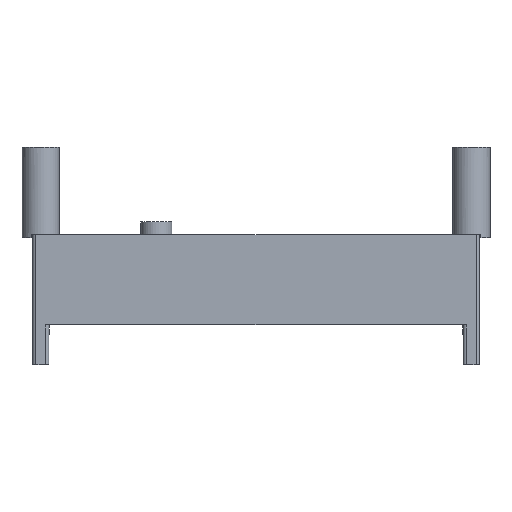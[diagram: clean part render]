
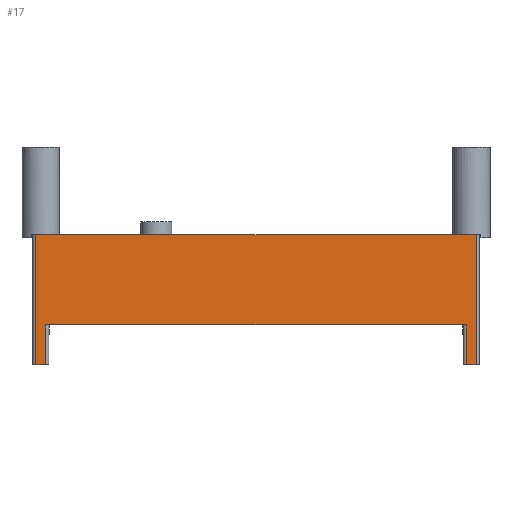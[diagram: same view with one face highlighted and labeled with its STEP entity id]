
A CAD part, left-side view. The second image highlights one B-rep face of the part: STEP entity #17.
In plain terms, the highlighted planar face has unit normal (-1, 0, 0).
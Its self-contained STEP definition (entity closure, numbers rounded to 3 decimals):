
#17 = ADVANCED_FACE('',(#18),#32,.F.);
#18 = FACE_BOUND('',#19,.F.);
#19 = EDGE_LOOP('',(#20,#55,#83,#111,#139,#167,#190,#213,#241,#269));
#20 = ORIENTED_EDGE('',*,*,#21,.F.);
#21 = EDGE_CURVE('',#22,#24,#26,.T.);
#22 = VERTEX_POINT('',#23);
#23 = CARTESIAN_POINT('',(-69.45,-35.3,25.45));
#24 = VERTEX_POINT('',#25);
#25 = CARTESIAN_POINT('',(-69.45,35.3,25.45));
#26 = SURFACE_CURVE('',#27,(#31,#43),.PCURVE_S1.);
#27 = LINE('',#28,#29);
#28 = CARTESIAN_POINT('',(-69.45,-35.8,25.45));
#29 = VECTOR('',#30,1.);
#30 = DIRECTION('',(0.,1.,0.));
#31 = PCURVE('',#32,#37);
#32 = PLANE('',#33);
#33 = AXIS2_PLACEMENT_3D('',#34,#35,#36);
#34 = CARTESIAN_POINT('',(-69.45,-35.8,4.6));
#35 = DIRECTION('',(1.,0.,-0.));
#36 = DIRECTION('',(0.,0.,1.));
#37 = DEFINITIONAL_REPRESENTATION('',(#38),#42);
#38 = LINE('',#39,#40);
#39 = CARTESIAN_POINT('',(20.85,0.));
#40 = VECTOR('',#41,1.);
#41 = DIRECTION('',(0.,-1.));
#42 = ( GEOMETRIC_REPRESENTATION_CONTEXT(2) 
PARAMETRIC_REPRESENTATION_CONTEXT() REPRESENTATION_CONTEXT('2D SPACE',''
  ) );
#43 = PCURVE('',#44,#49);
#44 = PLANE('',#45);
#45 = AXIS2_PLACEMENT_3D('',#46,#47,#48);
#46 = CARTESIAN_POINT('',(-69.45,-35.8,25.45));
#47 = DIRECTION('',(0.,0.,1.));
#48 = DIRECTION('',(1.,0.,-0.));
#49 = DEFINITIONAL_REPRESENTATION('',(#50),#54);
#50 = LINE('',#51,#52);
#51 = CARTESIAN_POINT('',(0.,0.));
#52 = VECTOR('',#53,1.);
#53 = DIRECTION('',(0.,1.));
#54 = ( GEOMETRIC_REPRESENTATION_CONTEXT(2) 
PARAMETRIC_REPRESENTATION_CONTEXT() REPRESENTATION_CONTEXT('2D SPACE',''
  ) );
#55 = ORIENTED_EDGE('',*,*,#56,.F.);
#56 = EDGE_CURVE('',#57,#22,#59,.T.);
#57 = VERTEX_POINT('',#58);
#58 = CARTESIAN_POINT('',(-69.45,-35.3,4.6));
#59 = SURFACE_CURVE('',#60,(#64,#71),.PCURVE_S1.);
#60 = LINE('',#61,#62);
#61 = CARTESIAN_POINT('',(-69.45,-35.3,4.6));
#62 = VECTOR('',#63,1.);
#63 = DIRECTION('',(0.,0.,1.));
#64 = PCURVE('',#32,#65);
#65 = DEFINITIONAL_REPRESENTATION('',(#66),#70);
#66 = LINE('',#67,#68);
#67 = CARTESIAN_POINT('',(0.,-0.5));
#68 = VECTOR('',#69,1.);
#69 = DIRECTION('',(1.,0.));
#70 = ( GEOMETRIC_REPRESENTATION_CONTEXT(2) 
PARAMETRIC_REPRESENTATION_CONTEXT() REPRESENTATION_CONTEXT('2D SPACE',''
  ) );
#71 = PCURVE('',#72,#77);
#72 = CYLINDRICAL_SURFACE('',#73,0.5);
#73 = AXIS2_PLACEMENT_3D('',#74,#75,#76);
#74 = CARTESIAN_POINT('',(-68.95,-35.3,4.6));
#75 = DIRECTION('',(0.,0.,1.));
#76 = DIRECTION('',(-1.,-0.,0.));
#77 = DEFINITIONAL_REPRESENTATION('',(#78),#82);
#78 = LINE('',#79,#80);
#79 = CARTESIAN_POINT('',(0.,0.));
#80 = VECTOR('',#81,1.);
#81 = DIRECTION('',(0.,1.));
#82 = ( GEOMETRIC_REPRESENTATION_CONTEXT(2) 
PARAMETRIC_REPRESENTATION_CONTEXT() REPRESENTATION_CONTEXT('2D SPACE',''
  ) );
#83 = ORIENTED_EDGE('',*,*,#84,.T.);
#84 = EDGE_CURVE('',#57,#85,#87,.T.);
#85 = VERTEX_POINT('',#86);
#86 = CARTESIAN_POINT('',(-69.45,-33.7,4.6));
#87 = SURFACE_CURVE('',#88,(#92,#99),.PCURVE_S1.);
#88 = LINE('',#89,#90);
#89 = CARTESIAN_POINT('',(-69.45,-35.8,4.6));
#90 = VECTOR('',#91,1.);
#91 = DIRECTION('',(-0.,1.,0.));
#92 = PCURVE('',#32,#93);
#93 = DEFINITIONAL_REPRESENTATION('',(#94),#98);
#94 = LINE('',#95,#96);
#95 = CARTESIAN_POINT('',(0.,0.));
#96 = VECTOR('',#97,1.);
#97 = DIRECTION('',(0.,-1.));
#98 = ( GEOMETRIC_REPRESENTATION_CONTEXT(2) 
PARAMETRIC_REPRESENTATION_CONTEXT() REPRESENTATION_CONTEXT('2D SPACE',''
  ) );
#99 = PCURVE('',#100,#105);
#100 = PLANE('',#101);
#101 = AXIS2_PLACEMENT_3D('',#102,#103,#104);
#102 = CARTESIAN_POINT('',(-69.45,-35.8,4.6));
#103 = DIRECTION('',(0.,0.,1.));
#104 = DIRECTION('',(1.,0.,-0.));
#105 = DEFINITIONAL_REPRESENTATION('',(#106),#110);
#106 = LINE('',#107,#108);
#107 = CARTESIAN_POINT('',(0.,0.));
#108 = VECTOR('',#109,1.);
#109 = DIRECTION('',(0.,1.));
#110 = ( GEOMETRIC_REPRESENTATION_CONTEXT(2) 
PARAMETRIC_REPRESENTATION_CONTEXT() REPRESENTATION_CONTEXT('2D SPACE',''
  ) );
#111 = ORIENTED_EDGE('',*,*,#112,.T.);
#112 = EDGE_CURVE('',#85,#113,#115,.T.);
#113 = VERTEX_POINT('',#114);
#114 = CARTESIAN_POINT('',(-69.45,-33.7,11.));
#115 = SURFACE_CURVE('',#116,(#120,#127),.PCURVE_S1.);
#116 = LINE('',#117,#118);
#117 = CARTESIAN_POINT('',(-69.45,-33.7,4.6));
#118 = VECTOR('',#119,1.);
#119 = DIRECTION('',(0.,0.,1.));
#120 = PCURVE('',#32,#121);
#121 = DEFINITIONAL_REPRESENTATION('',(#122),#126);
#122 = LINE('',#123,#124);
#123 = CARTESIAN_POINT('',(0.,-2.1));
#124 = VECTOR('',#125,1.);
#125 = DIRECTION('',(1.,0.));
#126 = ( GEOMETRIC_REPRESENTATION_CONTEXT(2) 
PARAMETRIC_REPRESENTATION_CONTEXT() REPRESENTATION_CONTEXT('2D SPACE',''
  ) );
#127 = PCURVE('',#128,#133);
#128 = CYLINDRICAL_SURFACE('',#129,0.5);
#129 = AXIS2_PLACEMENT_3D('',#130,#131,#132);
#130 = CARTESIAN_POINT('',(-68.95,-33.7,4.6));
#131 = DIRECTION('',(0.,0.,1.));
#132 = DIRECTION('',(-1.,-0.,0.));
#133 = DEFINITIONAL_REPRESENTATION('',(#134),#138);
#134 = LINE('',#135,#136);
#135 = CARTESIAN_POINT('',(-0.,0.));
#136 = VECTOR('',#137,1.);
#137 = DIRECTION('',(-0.,1.));
#138 = ( GEOMETRIC_REPRESENTATION_CONTEXT(2) 
PARAMETRIC_REPRESENTATION_CONTEXT() REPRESENTATION_CONTEXT('2D SPACE',''
  ) );
#139 = ORIENTED_EDGE('',*,*,#140,.F.);
#140 = EDGE_CURVE('',#141,#113,#143,.T.);
#141 = VERTEX_POINT('',#142);
#142 = CARTESIAN_POINT('',(-69.45,-33.2,11.));
#143 = SURFACE_CURVE('',#144,(#148,#155),.PCURVE_S1.);
#144 = LINE('',#145,#146);
#145 = CARTESIAN_POINT('',(-69.45,-34.5,11.));
#146 = VECTOR('',#147,1.);
#147 = DIRECTION('',(0.,-1.,0.));
#148 = PCURVE('',#32,#149);
#149 = DEFINITIONAL_REPRESENTATION('',(#150),#154);
#150 = LINE('',#151,#152);
#151 = CARTESIAN_POINT('',(6.4,-1.3));
#152 = VECTOR('',#153,1.);
#153 = DIRECTION('',(0.,1.));
#154 = ( GEOMETRIC_REPRESENTATION_CONTEXT(2) 
PARAMETRIC_REPRESENTATION_CONTEXT() REPRESENTATION_CONTEXT('2D SPACE',''
  ) );
#155 = PCURVE('',#156,#161);
#156 = PLANE('',#157);
#157 = AXIS2_PLACEMENT_3D('',#158,#159,#160);
#158 = CARTESIAN_POINT('',(-69.45,-33.2,11.));
#159 = DIRECTION('',(0.,0.,1.));
#160 = DIRECTION('',(1.,0.,-0.));
#161 = DEFINITIONAL_REPRESENTATION('',(#162),#166);
#162 = LINE('',#163,#164);
#163 = CARTESIAN_POINT('',(0.,-1.3));
#164 = VECTOR('',#165,1.);
#165 = DIRECTION('',(0.,-1.));
#166 = ( GEOMETRIC_REPRESENTATION_CONTEXT(2) 
PARAMETRIC_REPRESENTATION_CONTEXT() REPRESENTATION_CONTEXT('2D SPACE',''
  ) );
#167 = ORIENTED_EDGE('',*,*,#168,.T.);
#168 = EDGE_CURVE('',#141,#169,#171,.T.);
#169 = VERTEX_POINT('',#170);
#170 = CARTESIAN_POINT('',(-69.45,33.2,11.));
#171 = SURFACE_CURVE('',#172,(#176,#183),.PCURVE_S1.);
#172 = LINE('',#173,#174);
#173 = CARTESIAN_POINT('',(-69.45,-33.2,11.));
#174 = VECTOR('',#175,1.);
#175 = DIRECTION('',(-0.,1.,0.));
#176 = PCURVE('',#32,#177);
#177 = DEFINITIONAL_REPRESENTATION('',(#178),#182);
#178 = LINE('',#179,#180);
#179 = CARTESIAN_POINT('',(6.4,-2.6));
#180 = VECTOR('',#181,1.);
#181 = DIRECTION('',(0.,-1.));
#182 = ( GEOMETRIC_REPRESENTATION_CONTEXT(2) 
PARAMETRIC_REPRESENTATION_CONTEXT() REPRESENTATION_CONTEXT('2D SPACE',''
  ) );
#183 = PCURVE('',#156,#184);
#184 = DEFINITIONAL_REPRESENTATION('',(#185),#189);
#185 = LINE('',#186,#187);
#186 = CARTESIAN_POINT('',(0.,0.));
#187 = VECTOR('',#188,1.);
#188 = DIRECTION('',(0.,1.));
#189 = ( GEOMETRIC_REPRESENTATION_CONTEXT(2) 
PARAMETRIC_REPRESENTATION_CONTEXT() REPRESENTATION_CONTEXT('2D SPACE',''
  ) );
#190 = ORIENTED_EDGE('',*,*,#191,.T.);
#191 = EDGE_CURVE('',#169,#192,#194,.T.);
#192 = VERTEX_POINT('',#193);
#193 = CARTESIAN_POINT('',(-69.45,33.7,11.));
#194 = SURFACE_CURVE('',#195,(#199,#206),.PCURVE_S1.);
#195 = LINE('',#196,#197);
#196 = CARTESIAN_POINT('',(-69.45,-34.5,11.));
#197 = VECTOR('',#198,1.);
#198 = DIRECTION('',(-0.,1.,-0.));
#199 = PCURVE('',#32,#200);
#200 = DEFINITIONAL_REPRESENTATION('',(#201),#205);
#201 = LINE('',#202,#203);
#202 = CARTESIAN_POINT('',(6.4,-1.3));
#203 = VECTOR('',#204,1.);
#204 = DIRECTION('',(0.,-1.));
#205 = ( GEOMETRIC_REPRESENTATION_CONTEXT(2) 
PARAMETRIC_REPRESENTATION_CONTEXT() REPRESENTATION_CONTEXT('2D SPACE',''
  ) );
#206 = PCURVE('',#156,#207);
#207 = DEFINITIONAL_REPRESENTATION('',(#208),#212);
#208 = LINE('',#209,#210);
#209 = CARTESIAN_POINT('',(0.,-1.3));
#210 = VECTOR('',#211,1.);
#211 = DIRECTION('',(0.,1.));
#212 = ( GEOMETRIC_REPRESENTATION_CONTEXT(2) 
PARAMETRIC_REPRESENTATION_CONTEXT() REPRESENTATION_CONTEXT('2D SPACE',''
  ) );
#213 = ORIENTED_EDGE('',*,*,#214,.F.);
#214 = EDGE_CURVE('',#215,#192,#217,.T.);
#215 = VERTEX_POINT('',#216);
#216 = CARTESIAN_POINT('',(-69.45,33.7,4.6));
#217 = SURFACE_CURVE('',#218,(#222,#229),.PCURVE_S1.);
#218 = LINE('',#219,#220);
#219 = CARTESIAN_POINT('',(-69.45,33.7,4.6));
#220 = VECTOR('',#221,1.);
#221 = DIRECTION('',(0.,0.,1.));
#222 = PCURVE('',#32,#223);
#223 = DEFINITIONAL_REPRESENTATION('',(#224),#228);
#224 = LINE('',#225,#226);
#225 = CARTESIAN_POINT('',(0.,-69.5));
#226 = VECTOR('',#227,1.);
#227 = DIRECTION('',(1.,0.));
#228 = ( GEOMETRIC_REPRESENTATION_CONTEXT(2) 
PARAMETRIC_REPRESENTATION_CONTEXT() REPRESENTATION_CONTEXT('2D SPACE',''
  ) );
#229 = PCURVE('',#230,#235);
#230 = CYLINDRICAL_SURFACE('',#231,0.5);
#231 = AXIS2_PLACEMENT_3D('',#232,#233,#234);
#232 = CARTESIAN_POINT('',(-68.95,33.7,4.6));
#233 = DIRECTION('',(0.,0.,1.));
#234 = DIRECTION('',(-1.,-0.,0.));
#235 = DEFINITIONAL_REPRESENTATION('',(#236),#240);
#236 = LINE('',#237,#238);
#237 = CARTESIAN_POINT('',(0.,0.));
#238 = VECTOR('',#239,1.);
#239 = DIRECTION('',(0.,1.));
#240 = ( GEOMETRIC_REPRESENTATION_CONTEXT(2) 
PARAMETRIC_REPRESENTATION_CONTEXT() REPRESENTATION_CONTEXT('2D SPACE',''
  ) );
#241 = ORIENTED_EDGE('',*,*,#242,.T.);
#242 = EDGE_CURVE('',#215,#243,#245,.T.);
#243 = VERTEX_POINT('',#244);
#244 = CARTESIAN_POINT('',(-69.45,35.3,4.6));
#245 = SURFACE_CURVE('',#246,(#250,#257),.PCURVE_S1.);
#246 = LINE('',#247,#248);
#247 = CARTESIAN_POINT('',(-69.45,33.2,4.6));
#248 = VECTOR('',#249,1.);
#249 = DIRECTION('',(-0.,1.,0.));
#250 = PCURVE('',#32,#251);
#251 = DEFINITIONAL_REPRESENTATION('',(#252),#256);
#252 = LINE('',#253,#254);
#253 = CARTESIAN_POINT('',(0.,-69.));
#254 = VECTOR('',#255,1.);
#255 = DIRECTION('',(0.,-1.));
#256 = ( GEOMETRIC_REPRESENTATION_CONTEXT(2) 
PARAMETRIC_REPRESENTATION_CONTEXT() REPRESENTATION_CONTEXT('2D SPACE',''
  ) );
#257 = PCURVE('',#258,#263);
#258 = PLANE('',#259);
#259 = AXIS2_PLACEMENT_3D('',#260,#261,#262);
#260 = CARTESIAN_POINT('',(-69.45,33.2,4.6));
#261 = DIRECTION('',(0.,0.,1.));
#262 = DIRECTION('',(1.,0.,-0.));
#263 = DEFINITIONAL_REPRESENTATION('',(#264),#268);
#264 = LINE('',#265,#266);
#265 = CARTESIAN_POINT('',(0.,0.));
#266 = VECTOR('',#267,1.);
#267 = DIRECTION('',(0.,1.));
#268 = ( GEOMETRIC_REPRESENTATION_CONTEXT(2) 
PARAMETRIC_REPRESENTATION_CONTEXT() REPRESENTATION_CONTEXT('2D SPACE',''
  ) );
#269 = ORIENTED_EDGE('',*,*,#270,.T.);
#270 = EDGE_CURVE('',#243,#24,#271,.T.);
#271 = SURFACE_CURVE('',#272,(#276,#283),.PCURVE_S1.);
#272 = LINE('',#273,#274);
#273 = CARTESIAN_POINT('',(-69.45,35.3,4.6));
#274 = VECTOR('',#275,1.);
#275 = DIRECTION('',(0.,0.,1.));
#276 = PCURVE('',#32,#277);
#277 = DEFINITIONAL_REPRESENTATION('',(#278),#282);
#278 = LINE('',#279,#280);
#279 = CARTESIAN_POINT('',(0.,-71.1));
#280 = VECTOR('',#281,1.);
#281 = DIRECTION('',(1.,0.));
#282 = ( GEOMETRIC_REPRESENTATION_CONTEXT(2) 
PARAMETRIC_REPRESENTATION_CONTEXT() REPRESENTATION_CONTEXT('2D SPACE',''
  ) );
#283 = PCURVE('',#284,#289);
#284 = CYLINDRICAL_SURFACE('',#285,0.5);
#285 = AXIS2_PLACEMENT_3D('',#286,#287,#288);
#286 = CARTESIAN_POINT('',(-68.95,35.3,4.6));
#287 = DIRECTION('',(0.,0.,1.));
#288 = DIRECTION('',(-1.,-0.,0.));
#289 = DEFINITIONAL_REPRESENTATION('',(#290),#294);
#290 = LINE('',#291,#292);
#291 = CARTESIAN_POINT('',(-0.,0.));
#292 = VECTOR('',#293,1.);
#293 = DIRECTION('',(-0.,1.));
#294 = ( GEOMETRIC_REPRESENTATION_CONTEXT(2) 
PARAMETRIC_REPRESENTATION_CONTEXT() REPRESENTATION_CONTEXT('2D SPACE',''
  ) );
